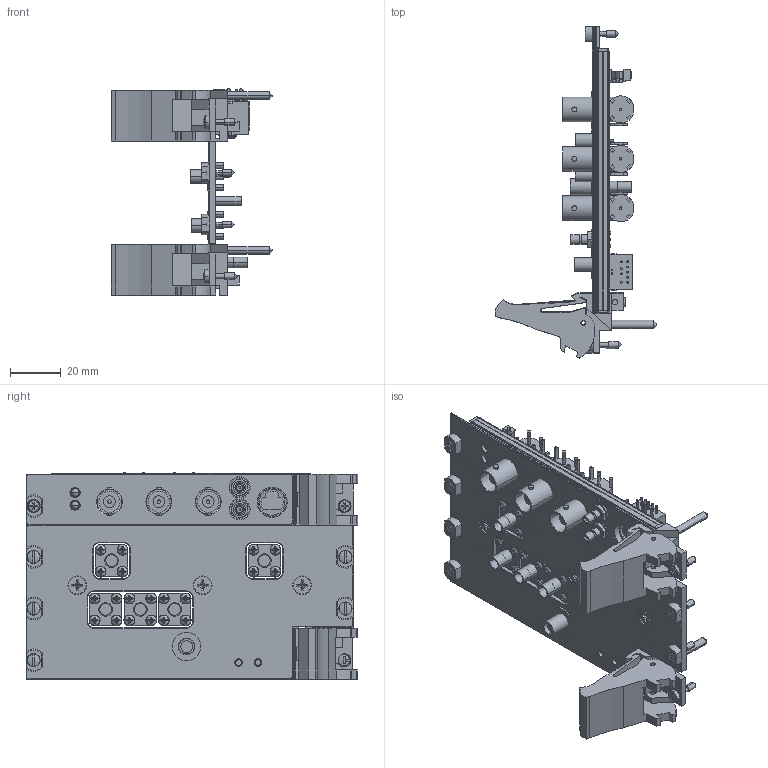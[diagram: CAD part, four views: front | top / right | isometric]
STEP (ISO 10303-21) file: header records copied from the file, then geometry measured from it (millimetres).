
FILE_DESCRIPTION((''),'2;1');
FILE_NAME('CU_PXI-5661','2009-12-30T',('jjorden'),(''),'PRO/ENGINEER BY PARAMETRIC TECHNOLOGY CORPORATION, 2006080','PRO/ENGINEER BY PARAMETRIC TECHNOLOGY CORPORATION, 2006080','');
FILE_SCHEMA(('CONFIG_CONTROL_DESIGN'));
Length unit declared in the file: inch
Products named in the file (1): CU_PXI-5661
Bounding box: 63.53 x 130.62 x 81.18 mm (x, y, z)
Volume: 53345.4 mm3; surface area: 51347 mm2
Topology: 16 solids, 16 shells, 2756 faces, 7152 edges, 4104 vertices
Faces by surface type: plane 1394, cylinder 693, bspline 486, cone 69, sphere 66, torus 48
Entity records: 93019 total; most frequent: CARTESIAN_POINT 29756, ORIENTED_EDGE 13296, DIRECTION 12396, EDGE_CURVE 6648, VERTEX_POINT 4579, AXIS2_PLACEMENT_3D 4380, VECTOR 3636, LINE 3636
